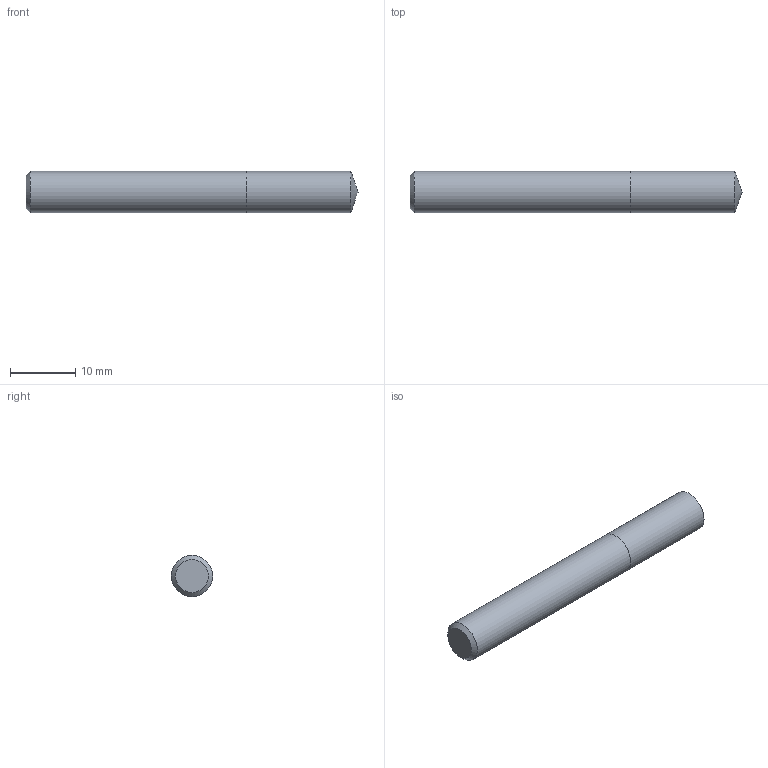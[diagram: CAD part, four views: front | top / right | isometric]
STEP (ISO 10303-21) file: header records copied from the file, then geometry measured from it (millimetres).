
FILE_DESCRIPTION (( 'STEP AP214' ), '1' );
FILE_NAME ('03-2222.STEP', '2022-02-07T07:04:41', ( 'USER' ), ( '' ), 'SwSTEP 2.0', 'SolidWorks 2018', '' );
FILE_SCHEMA (( 'AUTOMOTIVE_DESIGN' ));
Length unit declared in the file: millimetre
Products named in the file (1): 03-2222
Bounding box: 50.8 x 6.35 x 6.35 mm (x, y, z)
Volume: 1582 mm3; surface area: 1112.2 mm2
Topology: 2 solids, 2 shells, 7 faces, 11 edges, 7 vertices
Faces by surface type: plane 3, cylinder 2, cone 2
Full cylindrical faces by diameter (mm): 6.35 x2
Entity records: 189 total; most frequent: DIRECTION 26, CARTESIAN_POINT 18, AXIS2_PLACEMENT_3D 13, ORIENTED_EDGE 10, EDGE_LOOP 10, FACE_OUTER_BOUND 9, ADVANCED_FACE 7, UNCERTAINTY_MEASURE_WITH_UNIT 6
